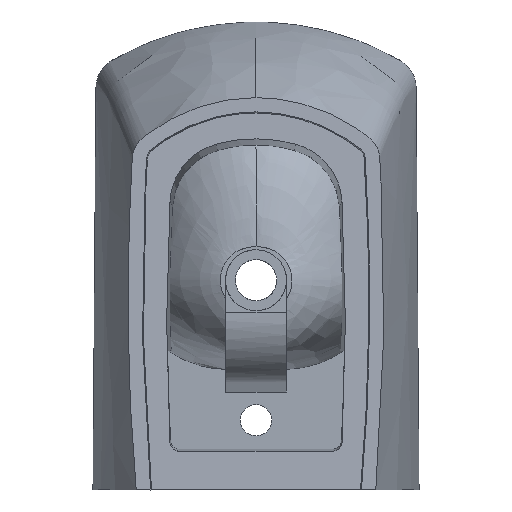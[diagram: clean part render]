
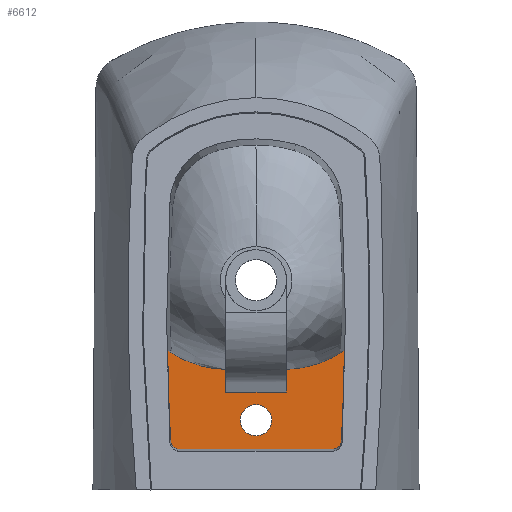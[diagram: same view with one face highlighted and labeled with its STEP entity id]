
A CAD part, front view. The second image highlights one B-rep face of the part: STEP entity #6612.
In plain terms, the highlighted planar face has unit normal (0, -1, 0).
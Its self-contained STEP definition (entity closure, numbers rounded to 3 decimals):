
#986 = LINE ( 'NONE', #48418, #31621 ) ;
#1777 = VERTEX_POINT ( 'NONE', #72643 ) ;
#2138 = CARTESIAN_POINT ( 'NONE',  ( -125.489, -11.1, -229.669 ) ) ;
#4585 = CARTESIAN_POINT ( 'NONE',  ( -98.621, -11.1, -113.829 ) ) ;
#4966 = CARTESIAN_POINT ( 'NONE',  ( -54.061, -11.1, -132.459 ) ) ;
#6173 = PLANE ( 'NONE',  #30164 ) ;
#6612 = ADVANCED_FACE ( 'NONE', ( #42783, #59025 ), #6173, .F. ) ;
#8221 = CARTESIAN_POINT ( 'NONE',  ( 72.992, -11.1, -127.02 ) ) ;
#9443 = VECTOR ( 'NONE', #56134, 1000. ) ;
#10369 = CARTESIAN_POINT ( 'NONE',  ( -66.598, -11.1, -129.288 ) ) ;
#10646 = ORIENTED_EDGE ( 'NONE', *, *, #36806, .F. ) ;
#11139 = LINE ( 'NONE', #52037, #22466 ) ;
#11819 = ORIENTED_EDGE ( 'NONE', *, *, #34306, .F. ) ;
#11911 = AXIS2_PLACEMENT_3D ( 'NONE', #17138, #64573, #39900 ) ;
#13350 = VERTEX_POINT ( 'NONE', #21458 ) ;
#13631 = CARTESIAN_POINT ( 'NONE',  ( 34.119, -11.1, -134.535 ) ) ;
#14372 = DIRECTION ( 'NONE',  ( 1., 0., 0. ) ) ;
#16149 = VERTEX_POINT ( 'NONE', #58102 ) ;
#16918 = CARTESIAN_POINT ( 'NONE',  ( -39.886, -11.1, -134.426 ) ) ;
#17138 = CARTESIAN_POINT ( 'NONE',  ( 0., -11.1, -191.537 ) ) ;
#17231 = CARTESIAN_POINT ( 'NONE',  ( -98.621, -11.1, -113.829 ) ) ;
#17995 = EDGE_CURVE ( 'NONE', #29713, #51340, #37419, .T. ) ;
#18175 = VECTOR ( 'NONE', #30041, 1000. ) ;
#18375 = ORIENTED_EDGE ( 'NONE', *, *, #18466, .F. ) ;
#18466 = EDGE_CURVE ( 'NONE', #1777, #54003, #11139, .T. ) ;
#18851 = CARTESIAN_POINT ( 'NONE',  ( -144.525, -11.1, -159.901 ) ) ;
#19799 = CARTESIAN_POINT ( 'NONE',  ( 62.171, -11.1, -130.649 ) ) ;
#20157 = CARTESIAN_POINT ( 'NONE',  ( -144.525, -11.1, -113.829 ) ) ;
#20179 = CARTESIAN_POINT ( 'NONE',  ( 80.912, -11.1, -123.728 ) ) ;
#21034 = CARTESIAN_POINT ( 'NONE',  ( -125.489, -11.1, 181.535 ) ) ;
#21324 = CARTESIAN_POINT ( 'NONE',  ( 88.58, -11.1, -119.956 ) ) ;
#21458 = CARTESIAN_POINT ( 'NONE',  ( -125.489, -11.1, -113.829 ) ) ;
#21651 = EDGE_CURVE ( 'NONE', #64291, #16149, #43492, .T. ) ;
#22466 = VECTOR ( 'NONE', #22723, 1000. ) ;
#22709 = CARTESIAN_POINT ( 'NONE',  ( -61.061, -11.1, -130.856 ) ) ;
#22723 = DIRECTION ( 'NONE',  ( 0., 0., -1. ) ) ;
#22915 = CARTESIAN_POINT ( 'NONE',  ( 34.119, -11.1, -134.535 ) ) ;
#23022 = CARTESIAN_POINT ( 'NONE',  ( -34.119, -11.1, -159.901 ) ) ;
#23914 = DIRECTION ( 'NONE',  ( 0., 1., 0. ) ) ;
#24135 = CARTESIAN_POINT ( 'NONE',  ( -93.81, -11.1, -116.986 ) ) ;
#24256 = CIRCLE ( 'NONE', #11911, 17.5 ) ;
#24518 = DIRECTION ( 'NONE',  ( 0., 0., -1. ) ) ;
#24796 = DIRECTION ( 'NONE',  ( 0., 0., 1. ) ) ;
#25581 = CARTESIAN_POINT ( 'NONE',  ( 56.67, -11.1, -131.994 ) ) ;
#26609 = DIRECTION ( 'NONE',  ( -1., 0., 0. ) ) ;
#27935 = VECTOR ( 'NONE', #66446, 1000. ) ;
#28174 = EDGE_CURVE ( 'NONE', #51340, #13350, #43789, .T. ) ;
#28435 = VERTEX_POINT ( 'NONE', #39144 ) ;
#28488 = CARTESIAN_POINT ( 'NONE',  ( -88.869, -11.1, -119.859 ) ) ;
#29327 = EDGE_CURVE ( 'NONE', #16149, #64291, #24256, .T. ) ;
#29702 = CARTESIAN_POINT ( 'NONE',  ( -144.525, -11.1, 181.535 ) ) ;
#29713 = VERTEX_POINT ( 'NONE', #53569 ) ;
#30041 = DIRECTION ( 'NONE',  ( 1., 0., 0. ) ) ;
#30164 = AXIS2_PLACEMENT_3D ( 'NONE', #29702, #23914, #65567 ) ;
#30585 = LINE ( 'NONE', #61419, #74926 ) ;
#31621 = VECTOR ( 'NONE', #24518, 1000. ) ;
#31746 = CARTESIAN_POINT ( 'NONE',  ( 74.332, -11.1, -126.505 ) ) ;
#32446 = EDGE_CURVE ( 'NONE', #13350, #54345, #48700, .T. ) ;
#32559 = VECTOR ( 'NONE', #14372, 1000. ) ;
#32841 = CARTESIAN_POINT ( 'NONE',  ( 0., -11.1, -209.037 ) ) ;
#33161 = CARTESIAN_POINT ( 'NONE',  ( -144.525, -11.1, -229.669 ) ) ;
#33273 = CARTESIAN_POINT ( 'NONE',  ( 93.503, -11.1, -117.079 ) ) ;
#33961 = EDGE_CURVE ( 'NONE', #73659, #29713, #986, .T. ) ;
#34306 = EDGE_CURVE ( 'NONE', #54345, #1777, #62584, .T. ) ;
#34319 = ORIENTED_EDGE ( 'NONE', *, *, #46736, .F. ) ;
#34659 = CARTESIAN_POINT ( 'NONE',  ( -56.87, -11.1, -131.88 ) ) ;
#35077 = ORIENTED_EDGE ( 'NONE', *, *, #29327, .T. ) ;
#36022 = VECTOR ( 'NONE', #26609, 1000. ) ;
#36225 = ORIENTED_EDGE ( 'NONE', *, *, #33961, .F. ) ;
#36806 = EDGE_CURVE ( 'NONE', #48035, #38738, #30585, .T. ) ;
#37419 = LINE ( 'NONE', #33161, #36022 ) ;
#37514 = LINE ( 'NONE', #20157, #32559 ) ;
#37536 = CARTESIAN_POINT ( 'NONE',  ( 70.301, -11.1, -127.997 ) ) ;
#38287 = CARTESIAN_POINT ( 'NONE',  ( 0., -11.1, -191.537 ) ) ;
#38738 = VERTEX_POINT ( 'NONE', #22915 ) ;
#39144 = CARTESIAN_POINT ( 'NONE',  ( 98.231, -11.1, -113.829 ) ) ;
#39900 = DIRECTION ( 'NONE',  ( 0., 0., 1. ) ) ;
#40437 = CARTESIAN_POINT ( 'NONE',  ( -34.119, -11.1, -134.536 ) ) ;
#42247 = CARTESIAN_POINT ( 'NONE',  ( -96.239, -11.1, -115.454 ) ) ;
#42783 = FACE_BOUND ( 'NONE', #58607, .T. ) ;
#42802 = CARTESIAN_POINT ( 'NONE',  ( 125.489, -11.1, -113.829 ) ) ;
#43492 = CIRCLE ( 'NONE', #63217, 17.5 ) ;
#43789 = LINE ( 'NONE', #21034, #9443 ) ;
#44828 = DIRECTION ( 'NONE',  ( 0., 0., 1. ) ) ;
#46736 = EDGE_CURVE ( 'NONE', #28435, #73659, #37514, .T. ) ;
#48035 = VERTEX_POINT ( 'NONE', #57924 ) ;
#48118 = ORIENTED_EDGE ( 'NONE', *, *, #58093, .F. ) ;
#48418 = CARTESIAN_POINT ( 'NONE',  ( 125.489, -11.1, 181.535 ) ) ;
#48700 = LINE ( 'NONE', #54485, #27935 ) ;
#49489 = CARTESIAN_POINT ( 'NONE',  ( 39.857, -11.1, -134.422 ) ) ;
#50623 = DIRECTION ( 'NONE',  ( 0., 1., 0. ) ) ;
#51340 = VERTEX_POINT ( 'NONE', #2138 ) ;
#51957 = B_SPLINE_CURVE_WITH_KNOTS ( 'NONE', 3,
 ( #13631, #49489, #54893, #25581, #19799, #66856, #37536, #8221, #31746, #73026, #20179, #21324, #33273, #74938 ),
 .UNSPECIFIED., .F., .F.,
 ( 4, 2, 2, 2, 2, 2, 4 ),
 ( -0.069, -0.052, -0.034, -0.03, -0.026, -0.017, 0. ),
 .UNSPECIFIED. ) ;
#52024 = CARTESIAN_POINT ( 'NONE',  ( -45.591, -11.1, -133.886 ) ) ;
#52037 = CARTESIAN_POINT ( 'NONE',  ( -34.119, -11.1, 181.535 ) ) ;
#52681 = ORIENTED_EDGE ( 'NONE', *, *, #17995, .F. ) ;
#53569 = CARTESIAN_POINT ( 'NONE',  ( 125.489, -11.1, -229.669 ) ) ;
#53797 = EDGE_CURVE ( 'NONE', #54003, #48035, #66289, .T. ) ;
#54003 = VERTEX_POINT ( 'NONE', #23022 ) ;
#54209 = CARTESIAN_POINT ( 'NONE',  ( -78.69, -11.1, -124.954 ) ) ;
#54345 = VERTEX_POINT ( 'NONE', #17231 ) ;
#54485 = CARTESIAN_POINT ( 'NONE',  ( 90., -11.1, -113.829 ) ) ;
#54893 = CARTESIAN_POINT ( 'NONE',  ( 45.513, -11.1, -133.88 ) ) ;
#56134 = DIRECTION ( 'NONE',  ( 0., 0., 1. ) ) ;
#56720 = EDGE_LOOP ( 'NONE', ( #61750, #74847, #52681, #36225, #34319, #48118, #10646, #69299, #18375, #11819 ) ) ;
#57810 = CARTESIAN_POINT ( 'NONE',  ( -62.456, -11.1, -130.488 ) ) ;
#57924 = CARTESIAN_POINT ( 'NONE',  ( 34.119, -11.1, -159.901 ) ) ;
#58093 = EDGE_CURVE ( 'NONE', #38738, #28435, #51957, .T. ) ;
#58102 = CARTESIAN_POINT ( 'NONE',  ( 0., -11.1, -174.037 ) ) ;
#58607 = EDGE_LOOP ( 'NONE', ( #35077, #71647 ) ) ;
#59025 = FACE_OUTER_BOUND ( 'NONE', #56720, .T. ) ;
#61419 = CARTESIAN_POINT ( 'NONE',  ( 34.119, -11.1, 181.535 ) ) ;
#61750 = ORIENTED_EDGE ( 'NONE', *, *, #32446, .F. ) ;
#62584 = B_SPLINE_CURVE_WITH_KNOTS ( 'NONE', 3,
 ( #4585, #42247, #24135, #28488, #65788, #54209, #75185, #10369, #69388, #57810, #22709, #34659, #4966, #52024, #16918, #40437 ),
 .UNSPECIFIED., .F., .F.,
 ( 4, 2, 2, 2, 2, 2, 2, 4 ),
 ( 0., 0.009, 0.017, 0.035, 0.039, 0.043, 0.052, 0.069 ),
 .UNSPECIFIED. ) ;
#63217 = AXIS2_PLACEMENT_3D ( 'NONE', #38287, #50623, #44828 ) ;
#64291 = VERTEX_POINT ( 'NONE', #32841 ) ;
#64573 = DIRECTION ( 'NONE',  ( 0., 1., 0. ) ) ;
#65567 = DIRECTION ( 'NONE',  ( 0., 0., 1. ) ) ;
#65788 = CARTESIAN_POINT ( 'NONE',  ( -86.356, -11.1, -121.202 ) ) ;
#66289 = LINE ( 'NONE', #18851, #18175 ) ;
#66446 = DIRECTION ( 'NONE',  ( 1., 0., 0. ) ) ;
#66856 = CARTESIAN_POINT ( 'NONE',  ( 68.95, -11.1, -128.461 ) ) ;
#69299 = ORIENTED_EDGE ( 'NONE', *, *, #53797, .F. ) ;
#69388 = CARTESIAN_POINT ( 'NONE',  ( -65.225, -11.1, -129.704 ) ) ;
#71647 = ORIENTED_EDGE ( 'NONE', *, *, #21651, .T. ) ;
#72643 = CARTESIAN_POINT ( 'NONE',  ( -34.119, -11.1, -134.536 ) ) ;
#73026 = CARTESIAN_POINT ( 'NONE',  ( 78.309, -11.1, -124.894 ) ) ;
#73659 = VERTEX_POINT ( 'NONE', #42802 ) ;
#74847 = ORIENTED_EDGE ( 'NONE', *, *, #28174, .F. ) ;
#74926 = VECTOR ( 'NONE', #24796, 1000. ) ;
#74938 = CARTESIAN_POINT ( 'NONE',  ( 98.231, -11.1, -113.829 ) ) ;
#75185 = CARTESIAN_POINT ( 'NONE',  ( -73.412, -11.1, -127.089 ) ) ;
